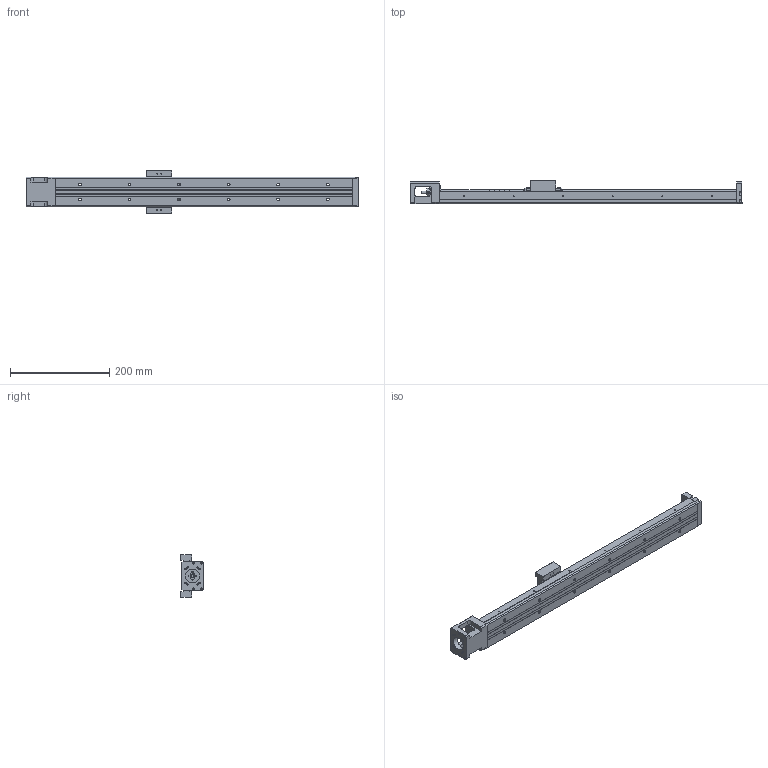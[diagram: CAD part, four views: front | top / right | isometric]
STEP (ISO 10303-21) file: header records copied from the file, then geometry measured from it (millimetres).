
FILE_DESCRIPTION(/* description */ (''),/* implementation_level */ '2;1');
FILE_NAME(/* name */ '33L-600.stp',/* time_stamp */ '2016-12-20T13:30:53+08:00',/* author */ (''),/* organization */ (''),/* preprocessor_version */ 'ST-DEVELOPER v11',/* originating_system */ 'SIEMENS UGS NX 6.0',/* authorisation */ '');
FILE_SCHEMA (('AUTOMOTIVE_DESIGN { 1 0 10303 214 1 1 1 1 }'));
Length unit declared in the file: millimetre
Products named in the file (1): model4
Bounding box: 670 x 47.95 x 86 mm (x, y, z)
Volume: 758808 mm3; surface area: 211706.9 mm2
Topology: 6 solids, 15 shells, 743 faces, 1865 edges, 1233 vertices
Faces by surface type: plane 435, cylinder 221, bspline 31, cone 24, extrusion 21, torus 9, revolution 2
Full cylindrical faces by diameter (mm): 1.6 x6, 1.65 x4, 2.15 x6, 2.42 x4, 2.45 x4, 2.5 x22, 3 x3, 3.2 x4, 3.3 x4, 3.4 x3, 3.5 x10, 3.969 x1, 4 x6, 4.001 x1, 4.135 x4, 4.2 x4, 5.5 x12, 6 x5, 7.6 x1, 8 x5, 9.5 x12, 10.72 x3, 11.8 x2, 12 x6, 12.8 x1, 13 x2, 14 x1, 17.38 x3, 21.5 x1, 22 x2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
Entity records: 37372 total; most frequent: CARTESIAN_POINT 16709, DIRECTION 3358, ORIENTED_EDGE 3206, EDGE_CURVE 1603, AXIS2_PLACEMENT_3D 1208, VERTEX_POINT 1149, EDGE_LOOP 1072, VECTOR 940
